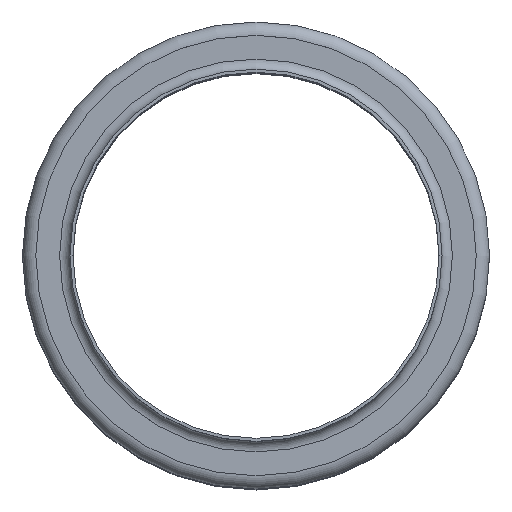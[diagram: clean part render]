
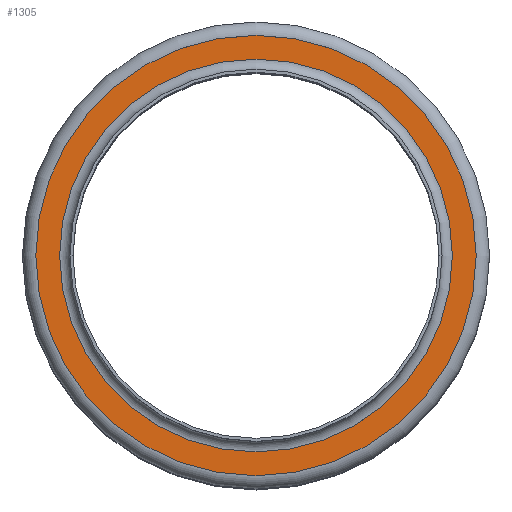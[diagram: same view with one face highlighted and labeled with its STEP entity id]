
A CAD part, top view. The second image highlights one B-rep face of the part: STEP entity #1305.
In plain terms, the highlighted planar face has unit normal (0, 0, 1).
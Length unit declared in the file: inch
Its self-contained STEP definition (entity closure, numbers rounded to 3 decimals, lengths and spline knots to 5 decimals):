
#130=FACE_BOUND('',#384,.T.);
#229=FACE_OUTER_BOUND('',#383,.T.);
#383=EDGE_LOOP('',(#1108));
#384=EDGE_LOOP('',(#1109));
#545=CIRCLE('',#1574,1.55575);
#546=CIRCLE('',#1576,1.74425);
#658=VERTEX_POINT('',#2470);
#659=VERTEX_POINT('',#2474);
#811=EDGE_CURVE('',#658,#658,#545,.T.);
#812=EDGE_CURVE('',#659,#659,#546,.T.);
#1108=ORIENTED_EDGE('',*,*,#812,.F.);
#1109=ORIENTED_EDGE('',*,*,#811,.T.);
#1206=PLANE('',#1575);
#1305=ADVANCED_FACE('',(#229,#130),#1206,.T.);
#1574=AXIS2_PLACEMENT_3D('',#2472,#2070,#2071);
#1575=AXIS2_PLACEMENT_3D('',#2473,#2072,#2073);
#1576=AXIS2_PLACEMENT_3D('',#2475,#2074,#2075);
#2070=DIRECTION('center_axis',(0.,0.,-1.));
#2071=DIRECTION('ref_axis',(1.,0.,0.));
#2072=DIRECTION('center_axis',(0.,0.,1.));
#2073=DIRECTION('ref_axis',(1.,0.,0.));
#2074=DIRECTION('center_axis',(0.,0.,-1.));
#2075=DIRECTION('ref_axis',(1.,0.,0.));
#2470=CARTESIAN_POINT('',(1.55575,0.,-0.08175));
#2472=CARTESIAN_POINT('Origin',(0.,0.,-0.08175));
#2473=CARTESIAN_POINT('Origin',(0.,1.74425,-0.08175));
#2474=CARTESIAN_POINT('',(1.74425,0.,-0.08175));
#2475=CARTESIAN_POINT('Origin',(0.,0.,-0.08175));
